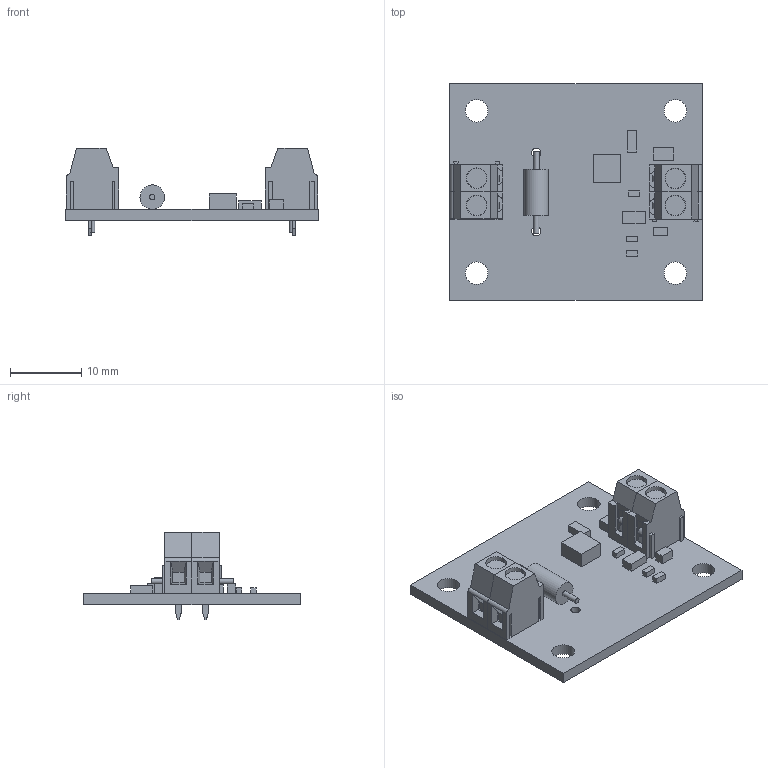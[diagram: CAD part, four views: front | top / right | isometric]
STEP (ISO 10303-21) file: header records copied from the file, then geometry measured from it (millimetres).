
FILE_DESCRIPTION(('Open CASCADE Model'),'2;1');
FILE_NAME('Open CASCADE Shape Model','2012-06-08T11:07:24',('Author'),( 'Open CASCADE'),'Open CASCADE STEP processor 6.2','Open CASCADE 6.2' ,'Unknown');
FILE_SCHEMA(('AUTOMOTIVE_DESIGN { 1 0 10303 214 1 1 1 1 }'));
Length unit declared in the file: millimetre
Products named in the file (38): PCB; Board; D3; 670747072; Cylinder; 670746952; 670746832; D2; 686150240; Extruded; J1; 20020327-d02_asm; 20020327-D-LEM; 20020327-D-REM; 670747312; J2; 670747192; C1; 686172384; D1; 686171744; R1; 686172256; R2; R3; Q1; 514118000; U1; 701822560
Assembly tree (41 placements, depth 4):
  PCB
    Board
    D3
      670747072
        Cylinder
      670746952
        Cylinder
      670746832
        Cylinder
    D2
      686150240
        Extruded
    J1
      20020327-d02_asm
        20020327-D-LEM
        20020327-D-REM  x2
      670747312
        Cylinder
    J2
      20020327-d02_asm
        20020327-D-LEM
        20020327-D-REM  x2
      670747192
        Cylinder
    C1
      686172384
        Extruded
    D1
      686171744
        Extruded
    R1
      686172256
        Extruded
    R2
      686172256
        Extruded
    R3
      686172256
        Extruded
    Q1
      514118000
        Extruded
    U1
      701822560
        Extruded
Bounding box: 35.56 x 30.48 x 12.31 mm (x, y, z)
Volume: 2540.5 mm3; surface area: 4061.3 mm2
Topology: 26 solids, 26 shells, 551 faces, 1381 edges, 886 vertices
Faces by surface type: plane 460, cylinder 83, cone 8
Full cylindrical faces by diameter (mm): 0.6 x2, 0.762 x2, 1.321 x6, 3.175 x4, 3.454 x1
Entity records: 12252 total; most frequent: CARTESIAN_POINT 2395, DIRECTION 1735, LINE 1112, VECTOR 1112, ORIENTED_EDGE 896, PCURVE 896, DEFINITIONAL_REPRESENTATION 896, EDGE_CURVE 448
